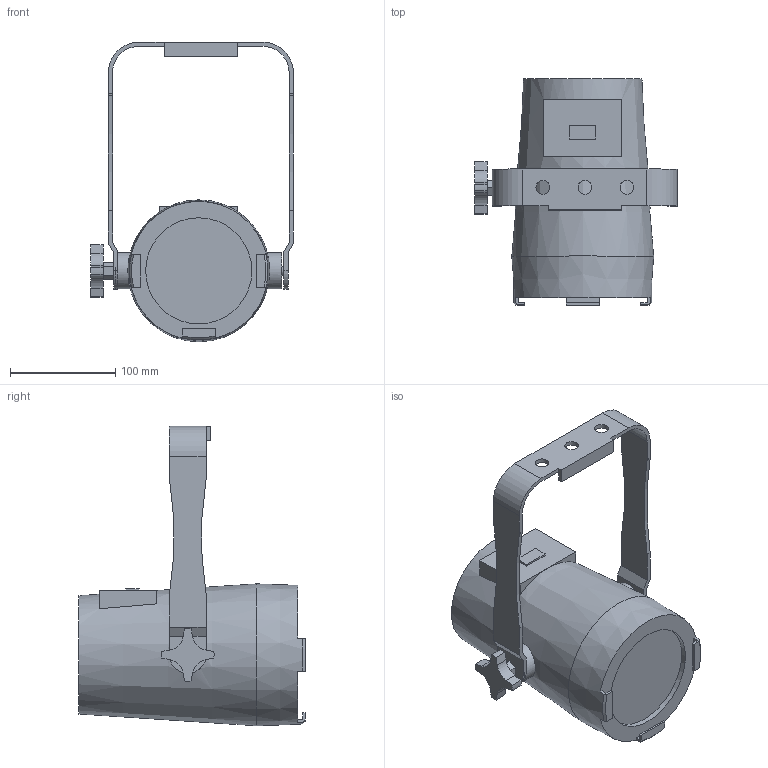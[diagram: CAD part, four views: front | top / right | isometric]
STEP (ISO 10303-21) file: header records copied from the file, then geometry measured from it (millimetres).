
FILE_DESCRIPTION(/* description */ (''),/* implementation_level */ '2;1');
FILE_NAME(/* name */ 'D:/dgooch/Documents/CADENG/PRO/COLORado M Solo/90/3D/COLORADO M SOLO_90.step',/* time_stamp */ '2019-09-11T11:30:35-04:00',/* author */ (''),/* organization */ (''),/* preprocessor_version */ 'ST-DEVELOPER v18',/* originating_system */ 'Autodesk Translation Framework v8.6.0.1094',/* authorisation */ '');
FILE_SCHEMA (('AUTOMOTIVE_DESIGN { 1 0 10303 214 3 1 1 }'));
Length unit declared in the file: millimetre
Products named in the file (3): COLORADO M SOLO; Bracket; Main
Assembly tree (2 placements, depth 2):
  COLORADO M SOLO
    Bracket
    Main
Bounding box: 192.87 x 215 x 285 mm (x, y, z)
Volume: 2702482.2 mm3; surface area: 175029.4 mm2
Topology: 2 solids, 2 shells, 112 faces, 311 edges, 210 vertices
Faces by surface type: plane 76, cylinder 31, cone 5
Full cylindrical faces by diameter (mm): 8 x2, 8.5 x1, 13 x3, 34.475 x2, 101 x1
Entity records: 3865 total; most frequent: CARTESIAN_POINT 814, DIRECTION 624, ORIENTED_EDGE 622, EDGE_CURVE 311, VERTEX_POINT 210, LINE 208, VECTOR 208, AXIS2_PLACEMENT_3D 208
